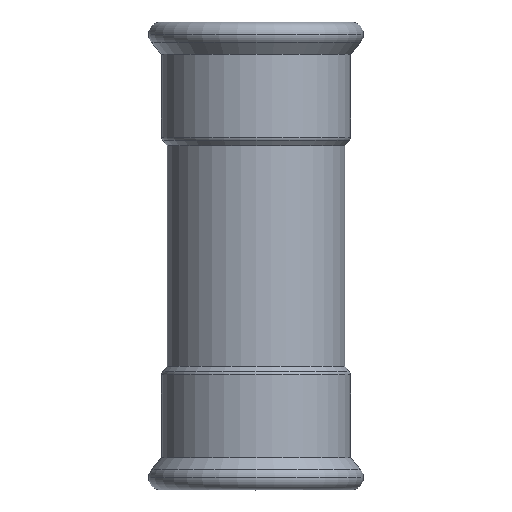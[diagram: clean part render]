
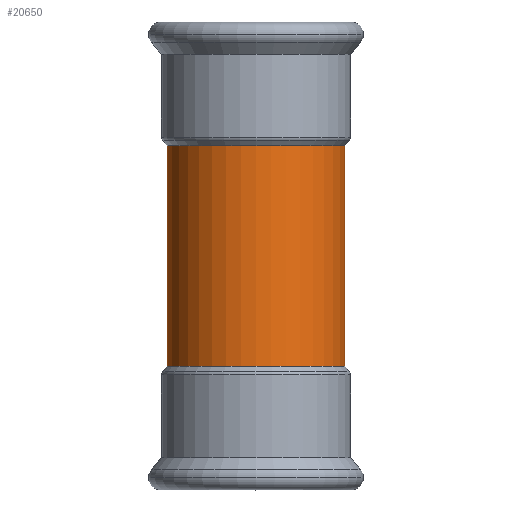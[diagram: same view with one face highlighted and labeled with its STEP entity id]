
A CAD part, top view. The second image highlights one B-rep face of the part: STEP entity #20650.
In plain terms, the highlighted cylindrical face has radius 27 mm (diameter 54 mm), a partial arc.
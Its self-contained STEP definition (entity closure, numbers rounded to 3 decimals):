
#13060=CARTESIAN_POINT('',(-404.306,7.173,
33.5));
#13070=DIRECTION('',(0.,0.,1.));
#13080=DIRECTION('',(-1.,0.,0.));
#13090=AXIS2_PLACEMENT_3D('',#13060,#13070,#13080);
#13100=CYLINDRICAL_SURFACE('',#13090,27.);
#20290=CARTESIAN_POINT('',(-431.306,7.173,
33.5));
#20300=DIRECTION('',(0.,0.,1.));
#20310=VECTOR('',#20300,1.);
#20320=LINE('',#20290,#20310);
#20330=CARTESIAN_POINT('',(-431.306,7.173,
-33.5));
#20340=VERTEX_POINT('',#20330);
#20350=CARTESIAN_POINT('',(-431.306,7.173,
33.5));
#20360=VERTEX_POINT('',#20350);
#20370=EDGE_CURVE('',#20340,#20360,#20320,.T.);
#20380=ORIENTED_EDGE('',*,*,#20370,.F.);
#20390=CARTESIAN_POINT('',(-404.306,7.173,
33.5));
#20400=DIRECTION('',(0.,0.,1.));
#20410=DIRECTION('',(1.,0.,0.));
#20420=AXIS2_PLACEMENT_3D('',#20390,#20400,#20410);
#20430=CIRCLE('',#20420,27.);
#20440=CARTESIAN_POINT('',(-377.306,7.173,
33.5));
#20450=VERTEX_POINT('',#20440);
#20460=EDGE_CURVE('',#20360,#20450,#20430,.T.);
#20470=ORIENTED_EDGE('',*,*,#20460,.F.);
#20480=CARTESIAN_POINT('',(-377.306,7.173,
33.5));
#20490=DIRECTION('',(0.,0.,1.));
#20500=VECTOR('',#20490,1.);
#20510=LINE('',#20480,#20500);
#20520=CARTESIAN_POINT('',(-377.306,7.173,
-33.5));
#20530=VERTEX_POINT('',#20520);
#20540=EDGE_CURVE('',#20530,#20450,#20510,.T.);
#20550=ORIENTED_EDGE('',*,*,#20540,.T.);
#20560=CARTESIAN_POINT('',(-404.306,7.173,
-33.5));
#20570=DIRECTION('',(0.,0.,1.));
#20580=DIRECTION('',(-1.,0.,0.));
#20590=AXIS2_PLACEMENT_3D('',#20560,#20570,#20580);
#20600=CIRCLE('',#20590,27.);
#20610=EDGE_CURVE('',#20340,#20530,#20600,.T.);
#20620=ORIENTED_EDGE('',*,*,#20610,.T.);
#20630=EDGE_LOOP('',(#20620,#20550,#20470,#20380));
#20640=FACE_OUTER_BOUND('',#20630,.T.);
#20650=ADVANCED_FACE('',(#20640),#13100,.T.);
